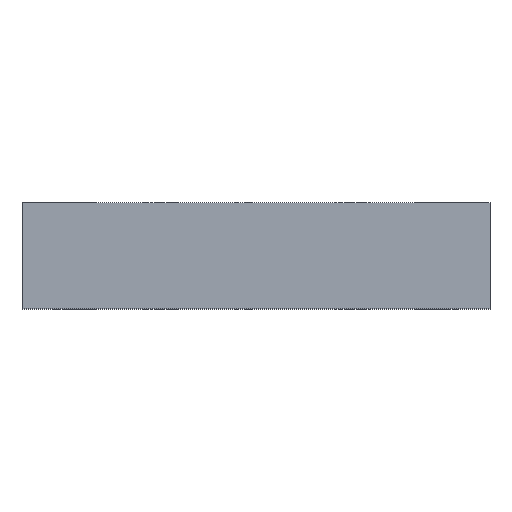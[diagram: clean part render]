
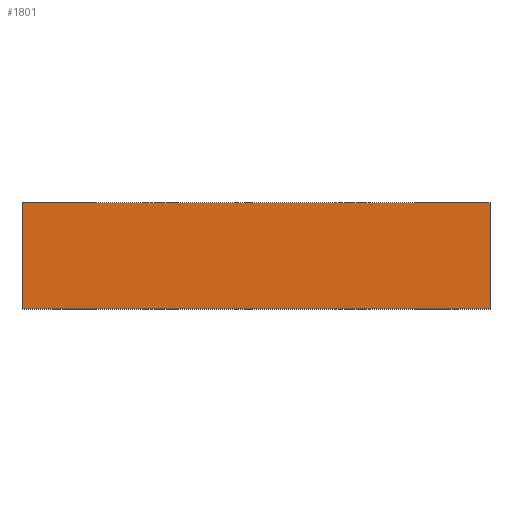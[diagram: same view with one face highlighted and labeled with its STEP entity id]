
A CAD part, top view. The second image highlights one B-rep face of the part: STEP entity #1801.
In plain terms, the highlighted planar face has unit normal (0, 0, 1).
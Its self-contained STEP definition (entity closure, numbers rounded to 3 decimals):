
#24 = VERTEX_POINT('',#25);
#25 = CARTESIAN_POINT('',(-22.,0.,16.));
#32 = PLANE('',#33);
#33 = AXIS2_PLACEMENT_3D('',#34,#35,#36);
#34 = CARTESIAN_POINT('',(-22.,-10.,-16.));
#35 = DIRECTION('',(1.,0.,0.));
#36 = DIRECTION('',(0.,0.,1.));
#44 = PLANE('',#45);
#45 = AXIS2_PLACEMENT_3D('',#46,#47,#48);
#46 = CARTESIAN_POINT('',(-22.,0.,-16.));
#47 = DIRECTION('',(0.,1.,0.));
#48 = DIRECTION('',(0.,0.,1.));
#56 = EDGE_CURVE('',#57,#24,#59,.T.);
#57 = VERTEX_POINT('',#58);
#58 = CARTESIAN_POINT('',(-22.,-10.,16.));
#59 = SURFACE_CURVE('',#60,(#64,#71),.PCURVE_S1.);
#60 = LINE('',#61,#62);
#61 = CARTESIAN_POINT('',(-22.,-10.,16.));
#62 = VECTOR('',#63,1.);
#63 = DIRECTION('',(0.,1.,0.));
#64 = PCURVE('',#32,#65);
#65 = DEFINITIONAL_REPRESENTATION('',(#66),#70);
#66 = LINE('',#67,#68);
#67 = CARTESIAN_POINT('',(32.,0.));
#68 = VECTOR('',#69,1.);
#69 = DIRECTION('',(0.,-1.));
#70 = ( GEOMETRIC_REPRESENTATION_CONTEXT(2)
PARAMETRIC_REPRESENTATION_CONTEXT() REPRESENTATION_CONTEXT('2D SPACE',''
  ) );
#71 = PCURVE('',#72,#77);
#72 = PLANE('',#73);
#73 = AXIS2_PLACEMENT_3D('',#74,#75,#76);
#74 = CARTESIAN_POINT('',(-22.,-10.,16.));
#75 = DIRECTION('',(0.,0.,1.));
#76 = DIRECTION('',(1.,0.,0.));
#77 = DEFINITIONAL_REPRESENTATION('',(#78),#82);
#78 = LINE('',#79,#80);
#79 = CARTESIAN_POINT('',(0.,0.));
#80 = VECTOR('',#81,1.);
#81 = DIRECTION('',(0.,1.));
#82 = ( GEOMETRIC_REPRESENTATION_CONTEXT(2)
PARAMETRIC_REPRESENTATION_CONTEXT() REPRESENTATION_CONTEXT('2D SPACE',''
  ) );
#100 = PLANE('',#101);
#101 = AXIS2_PLACEMENT_3D('',#102,#103,#104);
#102 = CARTESIAN_POINT('',(-22.,-10.,-16.));
#103 = DIRECTION('',(0.,1.,0.));
#104 = DIRECTION('',(0.,0.,1.));
#361 = PLANE('',#362);
#362 = AXIS2_PLACEMENT_3D('',#363,#364,#365);
#363 = CARTESIAN_POINT('',(22.,-10.,-16.));
#364 = DIRECTION('',(1.,0.,0.));
#365 = DIRECTION('',(0.,0.,1.));
#533 = EDGE_CURVE('',#24,#534,#536,.T.);
#534 = VERTEX_POINT('',#535);
#535 = CARTESIAN_POINT('',(22.,0.,16.));
#536 = SURFACE_CURVE('',#537,(#541,#548),.PCURVE_S1.);
#537 = LINE('',#538,#539);
#538 = CARTESIAN_POINT('',(-22.,0.,16.));
#539 = VECTOR('',#540,1.);
#540 = DIRECTION('',(1.,0.,0.));
#541 = PCURVE('',#44,#542);
#542 = DEFINITIONAL_REPRESENTATION('',(#543),#547);
#543 = LINE('',#544,#545);
#544 = CARTESIAN_POINT('',(32.,0.));
#545 = VECTOR('',#546,1.);
#546 = DIRECTION('',(0.,1.));
#547 = ( GEOMETRIC_REPRESENTATION_CONTEXT(2)
PARAMETRIC_REPRESENTATION_CONTEXT() REPRESENTATION_CONTEXT('2D SPACE',''
  ) );
#548 = PCURVE('',#72,#549);
#549 = DEFINITIONAL_REPRESENTATION('',(#550),#554);
#550 = LINE('',#551,#552);
#551 = CARTESIAN_POINT('',(0.,10.));
#552 = VECTOR('',#553,1.);
#553 = DIRECTION('',(1.,0.));
#554 = ( GEOMETRIC_REPRESENTATION_CONTEXT(2)
PARAMETRIC_REPRESENTATION_CONTEXT() REPRESENTATION_CONTEXT('2D SPACE',''
  ) );
#1328 = EDGE_CURVE('',#57,#1329,#1331,.T.);
#1329 = VERTEX_POINT('',#1330);
#1330 = CARTESIAN_POINT('',(22.,-10.,16.));
#1331 = SURFACE_CURVE('',#1332,(#1336,#1343),.PCURVE_S1.);
#1332 = LINE('',#1333,#1334);
#1333 = CARTESIAN_POINT('',(-22.,-10.,16.));
#1334 = VECTOR('',#1335,1.);
#1335 = DIRECTION('',(1.,0.,0.));
#1336 = PCURVE('',#100,#1337);
#1337 = DEFINITIONAL_REPRESENTATION('',(#1338),#1342);
#1338 = LINE('',#1339,#1340);
#1339 = CARTESIAN_POINT('',(32.,0.));
#1340 = VECTOR('',#1341,1.);
#1341 = DIRECTION('',(0.,1.));
#1342 = ( GEOMETRIC_REPRESENTATION_CONTEXT(2)
PARAMETRIC_REPRESENTATION_CONTEXT() REPRESENTATION_CONTEXT('2D SPACE',''
  ) );
#1343 = PCURVE('',#72,#1344);
#1344 = DEFINITIONAL_REPRESENTATION('',(#1345),#1349);
#1345 = LINE('',#1346,#1347);
#1346 = CARTESIAN_POINT('',(0.,0.));
#1347 = VECTOR('',#1348,1.);
#1348 = DIRECTION('',(1.,0.));
#1349 = ( GEOMETRIC_REPRESENTATION_CONTEXT(2)
PARAMETRIC_REPRESENTATION_CONTEXT() REPRESENTATION_CONTEXT('2D SPACE',''
  ) );
#1801 = ADVANCED_FACE('',(#1802),#72,.T.);
#1802 = FACE_BOUND('',#1803,.T.);
#1803 = EDGE_LOOP('',(#1804,#1805,#1806,#1827));
#1804 = ORIENTED_EDGE('',*,*,#56,.F.);
#1805 = ORIENTED_EDGE('',*,*,#1328,.T.);
#1806 = ORIENTED_EDGE('',*,*,#1807,.T.);
#1807 = EDGE_CURVE('',#1329,#534,#1808,.T.);
#1808 = SURFACE_CURVE('',#1809,(#1813,#1820),.PCURVE_S1.);
#1809 = LINE('',#1810,#1811);
#1810 = CARTESIAN_POINT('',(22.,-10.,16.));
#1811 = VECTOR('',#1812,1.);
#1812 = DIRECTION('',(0.,1.,0.));
#1813 = PCURVE('',#72,#1814);
#1814 = DEFINITIONAL_REPRESENTATION('',(#1815),#1819);
#1815 = LINE('',#1816,#1817);
#1816 = CARTESIAN_POINT('',(44.,0.));
#1817 = VECTOR('',#1818,1.);
#1818 = DIRECTION('',(0.,1.));
#1819 = ( GEOMETRIC_REPRESENTATION_CONTEXT(2)
PARAMETRIC_REPRESENTATION_CONTEXT() REPRESENTATION_CONTEXT('2D SPACE',''
  ) );
#1820 = PCURVE('',#361,#1821);
#1821 = DEFINITIONAL_REPRESENTATION('',(#1822),#1826);
#1822 = LINE('',#1823,#1824);
#1823 = CARTESIAN_POINT('',(32.,0.));
#1824 = VECTOR('',#1825,1.);
#1825 = DIRECTION('',(0.,-1.));
#1826 = ( GEOMETRIC_REPRESENTATION_CONTEXT(2)
PARAMETRIC_REPRESENTATION_CONTEXT() REPRESENTATION_CONTEXT('2D SPACE',''
  ) );
#1827 = ORIENTED_EDGE('',*,*,#533,.F.);
